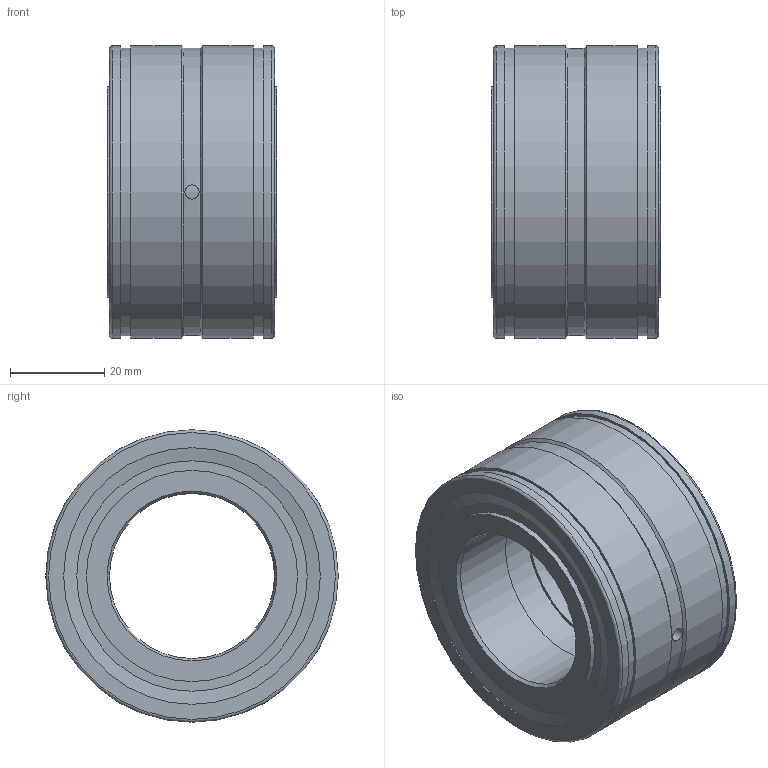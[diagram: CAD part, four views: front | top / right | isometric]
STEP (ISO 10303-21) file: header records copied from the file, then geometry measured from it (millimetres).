
FILE_DESCRIPTION(/* description */ (''),/* implementation_level */ '2;1');
FILE_NAME(/* name */ 'C:\Users\OUREHANEKD\Desktop\Ložiská\MODELY\JRVL\NNF\NNF50\NNF50--\NNF5007-PP.stp',/* time_stamp */ '2016-09-12T11:54:35+02:00',/* author */ ('OUREHANEKD'),/* organization */ (''),/* preprocessor_version */ 'ST-DEVELOPER v15.6',/* originating_system */ 'Autodesk Inventor 2015',/* authorisation */ '');
FILE_SCHEMA (('AUTOMOTIVE_DESIGN { 1 0 10303 214 3 1 1 }'));
Length unit declared in the file: millimetre
Products named in the file (5): NNF5007-PP-tes; NNF5007-PP-02; NNF5007-PP-01; NNF5007-PP-roller; NNF5007-PP
Assembly tree (25 placements, depth 2):
  NNF5007-PP
    NNF5007-PP-tes
    NNF5007-PP-02
    NNF5007-PP-01
    NNF5007-PP-roller  x22
Bounding box: 36 x 62 x 62 mm (x, y, z)
Volume: 56347.1 mm3; surface area: 39506.2 mm2
Topology: 48 solids, 48 shells, 283 faces, 419 edges, 246 vertices
Faces by surface type: plane 112, torus 90, cylinder 73, cone 8
Full cylindrical faces by diameter (mm): 3 x3, 5.9 x44, 35 x2, 36.08 x1, 42.6 x2, 42.96 x2, 44.76 x6, 45.912 x1, 52.6 x1, 54.4 x4, 60.92 x3, 62 x4
Entity records: 1966 total; most frequent: CARTESIAN_POINT 449, DIRECTION 342, AXIS2_PLACEMENT_3D 171, EDGE_LOOP 148, ORIENTED_EDGE 148, FACE_BOUND 75, VERTEX_POINT 74, EDGE_CURVE 74
